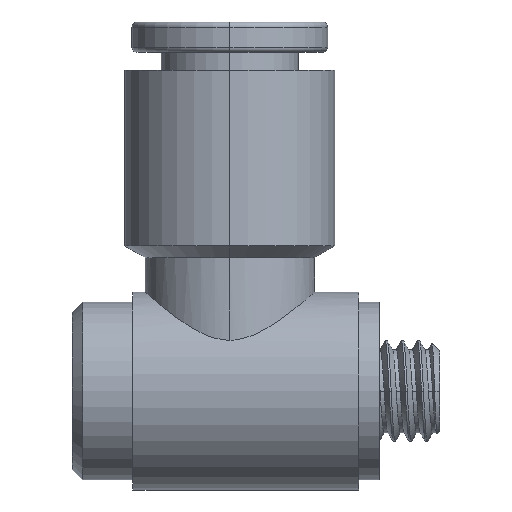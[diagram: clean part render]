
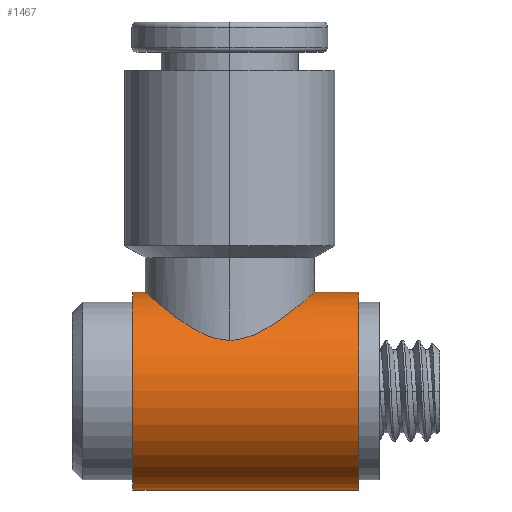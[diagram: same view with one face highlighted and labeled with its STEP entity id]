
A CAD part, left-side view. The second image highlights one B-rep face of the part: STEP entity #1467.
In plain terms, the highlighted cylindrical face has radius 4.9 mm (diameter 9.8 mm), a partial arc.
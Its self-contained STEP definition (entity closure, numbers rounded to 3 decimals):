
#10 = CARTESIAN_POINT ( 'NONE',  ( -0.59, -8.968, 4.873 ) ) ;
#20 = CARTESIAN_POINT ( 'NONE',  ( -0.147, -0.6, 4.9 ) ) ;
#21 = CARTESIAN_POINT ( 'NONE',  ( -4.051, -5.943, 2.758 ) ) ;
#59 = CARTESIAN_POINT ( 'NONE',  ( -0.294, -0.608, 4.893 ) ) ;
#66 = CARTESIAN_POINT ( 'NONE',  ( 0., -25.059, -4.9 ) ) ;
#109 = ORIENTED_EDGE ( 'NONE', *, *, #852, .F. ) ;
#113 = CARTESIAN_POINT ( 'NONE',  ( 0., 0., 0. ) ) ;
#145 = CARTESIAN_POINT ( 'NONE',  ( -3.637, -2.683, 3.29 ) ) ;
#155 = CARTESIAN_POINT ( 'NONE',  ( -4.161, -4.212, 2.587 ) ) ;
#156 = CARTESIAN_POINT ( 'NONE',  ( -2.19, -8.394, 4.391 ) ) ;
#164 = VERTEX_POINT ( 'NONE', #778 ) ;
#219 = EDGE_LOOP ( 'NONE', ( #109, #1372, #562, #1265, #339, #2631, #1603 ) ) ;
#266 = AXIS2_PLACEMENT_3D ( 'NONE', #113, #1770, #1813 ) ;
#325 = VERTEX_POINT ( 'NONE', #1869 ) ;
#339 = ORIENTED_EDGE ( 'NONE', *, *, #459, .T. ) ;
#368 = CARTESIAN_POINT ( 'NONE',  ( -1.432, -8.751, 4.688 ) ) ;
#380 = CARTESIAN_POINT ( 'NONE',  ( -4.2, -4.8, 2.524 ) ) ;
#418 = CARTESIAN_POINT ( 'NONE',  ( -3.915, -3.275, 2.947 ) ) ;
#459 = EDGE_CURVE ( 'NONE', #2248, #164, #1707, .T. ) ;
#461 = CARTESIAN_POINT ( 'NONE',  ( -2.828, -7.916, 4.008 ) ) ;
#532 = VERTEX_POINT ( 'NONE', #1275 ) ;
#562 = ORIENTED_EDGE ( 'NONE', *, *, #2097, .T. ) ;
#578 = CARTESIAN_POINT ( 'NONE',  ( -2.186, -1.204, 4.393 ) ) ;
#579 = CARTESIAN_POINT ( 'NONE',  ( 0., -9., 4.9 ) ) ;
#634 = VECTOR ( 'NONE', #2695, 1000. ) ;
#635 = LINE ( 'NONE', #1462, #634 ) ;
#691 = CARTESIAN_POINT ( 'NONE',  ( -4.162, -5.385, 2.587 ) ) ;
#707 = EDGE_CURVE ( 'NONE', #2663, #1307, #1075, .T. ) ;
#722 = FACE_OUTER_BOUND ( 'NONE', #219, .T. ) ;
#767 = DIRECTION ( 'NONE',  ( 0., -1., 0. ) ) ;
#778 = CARTESIAN_POINT ( 'NONE',  ( 0., -0.6, 4.9 ) ) ;
#790 = CARTESIAN_POINT ( 'NONE',  ( -4.139, -4.071, 2.624 ) ) ;
#803 = CARTESIAN_POINT ( 'NONE',  ( -4.08, -3.794, 2.714 ) ) ;
#852 = EDGE_CURVE ( 'NONE', #325, #2663, #1060, .T. ) ;
#853 = CARTESIAN_POINT ( 'NONE',  ( -1.017, -8.878, 4.795 ) ) ;
#876 = LINE ( 'NONE', #1710, #1123 ) ;
#1003 = CARTESIAN_POINT ( 'NONE',  ( -3.189, -2.055, 3.727 ) ) ;
#1050 = CARTESIAN_POINT ( 'NONE',  ( -4.2, -4.653, 2.524 ) ) ;
#1060 = LINE ( 'NONE', #66, #1725 ) ;
#1075 = CIRCLE ( 'NONE', #266, 4.9 ) ;
#1082 = EDGE_CURVE ( 'NONE', #532, #325, #2697, .T. ) ;
#1123 = VECTOR ( 'NONE', #1316, 1000. ) ;
#1229 = CARTESIAN_POINT ( 'NONE',  ( -1.433, -0.842, 4.694 ) ) ;
#1230 = CARTESIAN_POINT ( 'NONE',  ( -1.564, -8.7, 4.646 ) ) ;
#1250 = CARTESIAN_POINT ( 'NONE',  ( 0., -9., 4.9 ) ) ;
#1251 = EDGE_CURVE ( 'NONE', #164, #1307, #635, .T. ) ;
#1265 = ORIENTED_EDGE ( 'NONE', *, *, #1775, .T. ) ;
#1275 = CARTESIAN_POINT ( 'NONE',  ( 0., -11.2, 4.9 ) ) ;
#1290 = CARTESIAN_POINT ( 'NONE',  ( -4.2, -4.8, 2.524 ) ) ;
#1307 = VERTEX_POINT ( 'NONE', #2106 ) ;
#1316 = DIRECTION ( 'NONE',  ( 0., 1., 0. ) ) ;
#1372 = ORIENTED_EDGE ( 'NONE', *, *, #1082, .F. ) ;
#1412 = DIRECTION ( 'NONE',  ( 0., 0., 1. ) ) ;
#1431 = CARTESIAN_POINT ( 'NONE',  ( -1.949, -1.069, 4.504 ) ) ;
#1432 = CARTESIAN_POINT ( 'NONE',  ( -1.158, -8.84, 4.763 ) ) ;
#1462 = CARTESIAN_POINT ( 'NONE',  ( 0., -25.059, 4.9 ) ) ;
#1467 = ADVANCED_FACE ( 'NONE', ( #722 ), #2586, .T. ) ;
#1504 = CARTESIAN_POINT ( 'NONE',  ( -4.139, -5.528, 2.624 ) ) ;
#1551 = DIRECTION ( 'NONE',  ( 0., 1., 0. ) ) ;
#1603 = ORIENTED_EDGE ( 'NONE', *, *, #707, .F. ) ;
#1638 = CARTESIAN_POINT ( 'NONE',  ( -3.35, -2.254, 3.582 ) ) ;
#1684 = CARTESIAN_POINT ( 'NONE',  ( -4.192, -4.504, 2.537 ) ) ;
#1707 = B_SPLINE_CURVE_WITH_KNOTS ( 'NONE', 3,
 ( #380, #1050, #1684, #155, #790, #803, #2512, #2307, #418, #2047, #145, #1638, #1003, #2459, #1856, #578, #1431, #1229, #2057, #2472, #2145, #59, #20, #1921 ),
 .UNSPECIFIED., .F., .F.,
 ( 4, 2, 2, 2, 2, 2, 2, 2, 2, 2, 2, 4 ),
 ( 0.007, 0.007, 0.008, 0.008, 0.009, 0.01, 0.011, 0.011, 0.012, 0.013, 0.014, 0.014 ),
 .UNSPECIFIED. ) ;
#1710 = CARTESIAN_POINT ( 'NONE',  ( 0., -25.059, 4.9 ) ) ;
#1725 = VECTOR ( 'NONE', #2396, 1000. ) ;
#1727 = CARTESIAN_POINT ( 'NONE',  ( -3.189, -7.545, 3.727 ) ) ;
#1733 = B_SPLINE_CURVE_WITH_KNOTS ( 'NONE', 3,
 ( #579, #1894, #10, #853, #1432, #368, #1230, #2058, #156, #1922, #461, #1727, #2133, #2347, #2539, #2160, #21, #1504, #691, #2178, #2581, #1290 ),
 .UNSPECIFIED., .F., .F.,
 ( 4, 2, 2, 2, 2, 2, 2, 2, 2, 2, 4 ),
 ( 0., 0.001, 0.001, 0.002, 0.003, 0.004, 0.004, 0.005, 0.006, 0.007, 0.007 ),
 .UNSPECIFIED. ) ;
#1758 = VERTEX_POINT ( 'NONE', #1250 ) ;
#1770 = DIRECTION ( 'NONE',  ( 0., 1., 0. ) ) ;
#1775 = EDGE_CURVE ( 'NONE', #1758, #2248, #1733, .T. ) ;
#1813 = DIRECTION ( 'NONE',  ( 0., 0., 1. ) ) ;
#1856 = CARTESIAN_POINT ( 'NONE',  ( -2.624, -1.51, 4.146 ) ) ;
#1869 = CARTESIAN_POINT ( 'NONE',  ( 0., -11.2, -4.9 ) ) ;
#1894 = CARTESIAN_POINT ( 'NONE',  ( -0.299, -9., 4.9 ) ) ;
#1921 = CARTESIAN_POINT ( 'NONE',  ( 0., -0.6, 4.9 ) ) ;
#1922 = CARTESIAN_POINT ( 'NONE',  ( -2.629, -8.086, 4.143 ) ) ;
#1965 = CARTESIAN_POINT ( 'NONE',  ( 0., -25.059, 0. ) ) ;
#2047 = CARTESIAN_POINT ( 'NONE',  ( -3.761, -2.912, 3.146 ) ) ;
#2057 = CARTESIAN_POINT ( 'NONE',  ( -1.161, -0.753, 4.769 ) ) ;
#2058 = CARTESIAN_POINT ( 'NONE',  ( -1.948, -8.531, 4.504 ) ) ;
#2097 = EDGE_CURVE ( 'NONE', #532, #1758, #876, .T. ) ;
#2106 = CARTESIAN_POINT ( 'NONE',  ( 0., 0., 4.9 ) ) ;
#2121 = DIRECTION ( 'NONE',  ( 0., 0., 1. ) ) ;
#2133 = CARTESIAN_POINT ( 'NONE',  ( -3.353, -7.343, 3.579 ) ) ;
#2145 = CARTESIAN_POINT ( 'NONE',  ( -0.588, -0.639, 4.867 ) ) ;
#2160 = CARTESIAN_POINT ( 'NONE',  ( -3.967, -6.204, 2.881 ) ) ;
#2178 = CARTESIAN_POINT ( 'NONE',  ( -4.192, -5.093, 2.537 ) ) ;
#2195 = CARTESIAN_POINT ( 'NONE',  ( 0., 0., -4.9 ) ) ;
#2248 = VERTEX_POINT ( 'NONE', #2415 ) ;
#2307 = CARTESIAN_POINT ( 'NONE',  ( -3.962, -3.399, 2.884 ) ) ;
#2347 = CARTESIAN_POINT ( 'NONE',  ( -3.638, -6.915, 3.289 ) ) ;
#2390 = AXIS2_PLACEMENT_3D ( 'NONE', #2438, #767, #1412 ) ;
#2396 = DIRECTION ( 'NONE',  ( 0., 1., 0. ) ) ;
#2415 = CARTESIAN_POINT ( 'NONE',  ( -4.2, -4.8, 2.524 ) ) ;
#2438 = CARTESIAN_POINT ( 'NONE',  ( 0., -11.2, 0. ) ) ;
#2459 = CARTESIAN_POINT ( 'NONE',  ( -2.827, -1.683, 4.009 ) ) ;
#2472 = CARTESIAN_POINT ( 'NONE',  ( -0.734, -0.662, 4.847 ) ) ;
#2512 = CARTESIAN_POINT ( 'NONE',  ( -4.044, -3.659, 2.768 ) ) ;
#2516 = AXIS2_PLACEMENT_3D ( 'NONE', #1965, #1551, #2121 ) ;
#2539 = CARTESIAN_POINT ( 'NONE',  ( -3.76, -6.69, 3.146 ) ) ;
#2581 = CARTESIAN_POINT ( 'NONE',  ( -4.2, -4.947, 2.524 ) ) ;
#2586 = CYLINDRICAL_SURFACE ( 'NONE', #2516, 4.9 ) ;
#2631 = ORIENTED_EDGE ( 'NONE', *, *, #1251, .T. ) ;
#2663 = VERTEX_POINT ( 'NONE', #2195 ) ;
#2695 = DIRECTION ( 'NONE',  ( 0., 1., 0. ) ) ;
#2697 = CIRCLE ( 'NONE', #2390, 4.9 ) ;
